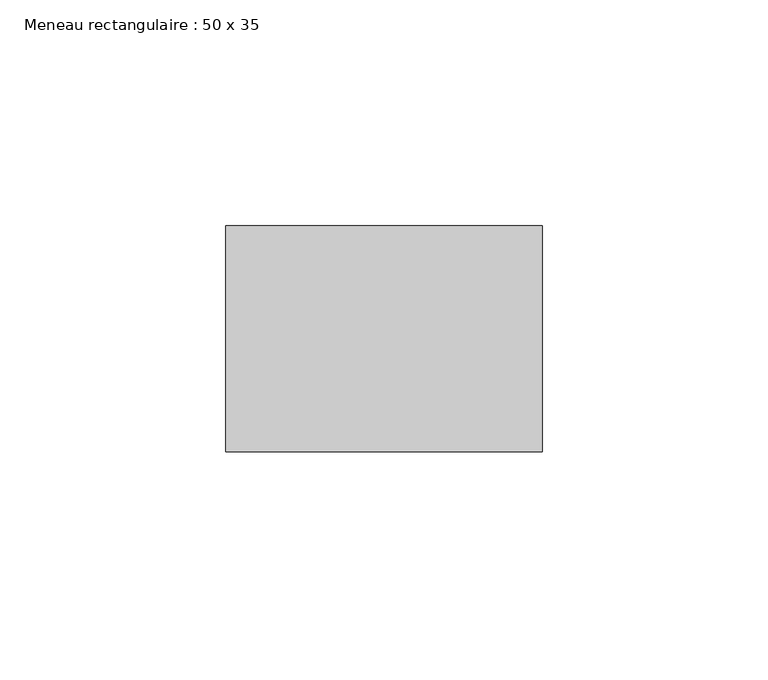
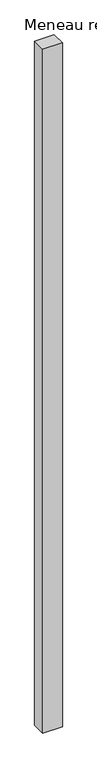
"""IFC4 building model written with IfcOpenShell, lengths in millimetres: member geometry, Meneau rectangulaire : 50 x 35."""

from ifc_helpers import new_model, si_unit, frame, origin, place, context, project, spatial, polyline, outline, extrude, source, transform, mapped, element, save


def meneau_rectangulaire_50_x_35_3e7af477(model_context):
    return source(origin(), model_context, "Body", "SweptSolid", [
        extrude(outline(polyline([(0.0, 0.0), (0.0, -50.0), (-70.0, -50.0), (-70.0, 0.0), (0.0, 0.0)])), frame((0.0, 0.0, -2583.0), z_axis=(0.0, 0.0, 1.0), x_axis=(1.0, 0.0, 0.0)), (0.0, 0.0, 1.0), 2583.0),
    ])


if __name__ == "__main__":
    model = new_model("IFC4")
    model_context = context("Model", 3, world=origin())
    ifc_project = project(units=[si_unit("LENGTHUNIT", "METRE", prefix="MILLI")], contexts=[model_context])
    site = spatial("IfcSite", under=ifc_project)
    building = spatial("IfcBuilding", under=site)
    placement = place(None, origin())
    meneau_rectangulaire_50_x_35_shape = meneau_rectangulaire_50_x_35_3e7af477(model_context)
    element("IfcMember", 1, ObjectType="Meneau rectangulaire : 50 x 35", at=placement, inside=building, context=model_context, shape_type="MappedRepresentation", body=[
        mapped(meneau_rectangulaire_50_x_35_shape, transform((0.0, 0.0, 0.0), x_axis=(1.0, 0.0, 0.0), y_axis=(0.0, 1.0, 0.0), z_axis=(0.0, 0.0, 1.0))),
    ])
    save(model, "model.ifc")
